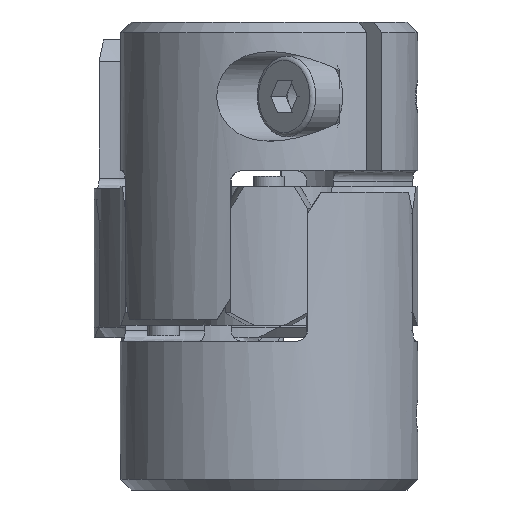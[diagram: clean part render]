
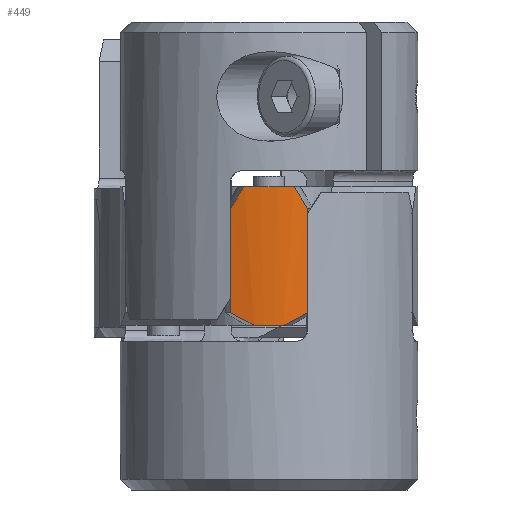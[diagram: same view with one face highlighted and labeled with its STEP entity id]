
A CAD part, left-side view. The second image highlights one B-rep face of the part: STEP entity #449.
In plain terms, the highlighted cylindrical face has radius 7 mm (diameter 14 mm), a partial arc.
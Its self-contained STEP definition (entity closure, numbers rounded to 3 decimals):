
#449 = ADVANCED_FACE( 'NONE', ( #834 ), #835, .T. );
#834 = FACE_OUTER_BOUND( '', #1089, .T. );
#835 = CYLINDRICAL_SURFACE( '', #1090, 7. );
#1089 = EDGE_LOOP( '', ( #1531, #1532, #1533, #1534, #1535, #1536, #1537, #1538 ) );
#1090 = AXIS2_PLACEMENT_3D( '', #1539, #1540, #1541 );
#1531 = ORIENTED_EDGE( '', *, *, #2237, .T. );
#1532 = ORIENTED_EDGE( '', *, *, #2238, .T. );
#1533 = ORIENTED_EDGE( '', *, *, #2162, .T. );
#1534 = ORIENTED_EDGE( '', *, *, #2174, .F. );
#1535 = ORIENTED_EDGE( '', *, *, #2221, .T. );
#1536 = ORIENTED_EDGE( '', *, *, #2239, .F. );
#1537 = ORIENTED_EDGE( '', *, *, #2199, .T. );
#1538 = ORIENTED_EDGE( '', *, *, #2240, .T. );
#1539 = CARTESIAN_POINT( '', ( 0., 0., 6.5 ) );
#1540 = DIRECTION( '', ( 0., 0., 1. ) );
#1541 = DIRECTION( '', ( -1., 0., 0. ) );
#2162 = EDGE_CURVE( 'NONE', #2447, #2448, #2449, .T. );
#2174 = EDGE_CURVE( 'NONE', #2468, #2448, #2470, .T. );
#2199 = EDGE_CURVE( 'NONE', #2517, #2515, #2518, .T. );
#2221 = EDGE_CURVE( 'NONE', #2468, #2554, #2555, .T. );
#2237 = EDGE_CURVE( 'NONE', #2581, #2582, #2583, .T. );
#2238 = EDGE_CURVE( 'NONE', #2582, #2447, #2584, .T. );
#2239 = EDGE_CURVE( 'NONE', #2517, #2554, #2585, .T. );
#2240 = EDGE_CURVE( 'NONE', #2515, #2581, #2586, .T. );
#2447 = VERTEX_POINT( 'NONE', #2693 );
#2448 = VERTEX_POINT( 'NONE', #2694 );
#2449 = B_SPLINE_CURVE_WITH_KNOTS( '', 3, ( #2695, #2696, #2697, #2698 ), .UNSPECIFIED., .F., .F., ( 4, 4 ), ( 0., 0.001 ), .UNSPECIFIED. );
#2468 = VERTEX_POINT( 'NONE', #2731 );
#2470 = LINE( '', #2733, #2734 );
#2515 = VERTEX_POINT( 'NONE', #2813 );
#2517 = VERTEX_POINT( 'NONE', #2815 );
#2518 = B_SPLINE_CURVE_WITH_KNOTS( '', 3, ( #2816, #2817, #2818, #2819 ), .UNSPECIFIED., .F., .F., ( 4, 4 ), ( 0.013, 0.014 ), .UNSPECIFIED. );
#2554 = VERTEX_POINT( 'NONE', #2876 );
#2555 = B_SPLINE_CURVE_WITH_KNOTS( '', 3, ( #2877, #2878, #2879, #2880 ), .UNSPECIFIED., .F., .F., ( 4, 4 ), ( 0.054, 0.055 ), .UNSPECIFIED. );
#2581 = VERTEX_POINT( 'NONE', #2918 );
#2582 = VERTEX_POINT( 'NONE', #2919 );
#2583 = B_SPLINE_CURVE_WITH_KNOTS( '', 3, ( #2920, #2921, #2922, #2923 ), .UNSPECIFIED., .F., .F., ( 4, 4 ), ( 0., 0.001 ), .UNSPECIFIED. );
#2584 = CIRCLE( '', #2924, 7. );
#2585 = CIRCLE( '', #2925, 7. );
#2586 = LINE( '', #2926, #2927 );
#2693 = CARTESIAN_POINT( '', ( -6.965, -0.702, 0. ) );
#2694 = CARTESIAN_POINT( '', ( -6.761, -1.812, 0.577 ) );
#2695 = CARTESIAN_POINT( '', ( -6.965, -0.702, 0. ) );
#2696 = CARTESIAN_POINT( '', ( -6.927, -1.075, 0.196 ) );
#2697 = CARTESIAN_POINT( '', ( -6.86, -1.446, 0.388 ) );
#2698 = CARTESIAN_POINT( '', ( -6.761, -1.812, 0.577 ) );
#2731 = CARTESIAN_POINT( '', ( -6.761, -1.812, 5.5 ) );
#2733 = CARTESIAN_POINT( '', ( -6.761, -1.812, 0. ) );
#2734 = VECTOR( '', #3074, 1000. );
#2813 = CARTESIAN_POINT( '', ( -6.761, 1.812, 5.5 ) );
#2815 = CARTESIAN_POINT( '', ( -6.902, 1.169, 6.5 ) );
#2816 = CARTESIAN_POINT( '', ( -6.902, 1.169, 6.5 ) );
#2817 = CARTESIAN_POINT( '', ( -6.865, 1.384, 6.165 ) );
#2818 = CARTESIAN_POINT( '', ( -6.819, 1.599, 5.831 ) );
#2819 = CARTESIAN_POINT( '', ( -6.761, 1.812, 5.5 ) );
#2876 = CARTESIAN_POINT( '', ( -6.902, -1.169, 6.5 ) );
#2877 = CARTESIAN_POINT( '', ( -6.761, -1.812, 5.5 ) );
#2878 = CARTESIAN_POINT( '', ( -6.819, -1.597, 5.833 ) );
#2879 = CARTESIAN_POINT( '', ( -6.865, -1.383, 6.167 ) );
#2880 = CARTESIAN_POINT( '', ( -6.902, -1.169, 6.5 ) );
#2918 = CARTESIAN_POINT( '', ( -6.761, 1.812, 0.577 ) );
#2919 = CARTESIAN_POINT( '', ( -6.965, 0.702, 0. ) );
#2920 = CARTESIAN_POINT( '', ( -6.761, 1.812, 0.577 ) );
#2921 = CARTESIAN_POINT( '', ( -6.86, 1.446, 0.388 ) );
#2922 = CARTESIAN_POINT( '', ( -6.927, 1.075, 0.196 ) );
#2923 = CARTESIAN_POINT( '', ( -6.965, 0.702, 0. ) );
#2924 = AXIS2_PLACEMENT_3D( '', #3178, #3179, #3180 );
#2925 = AXIS2_PLACEMENT_3D( '', #3181, #3182, #3183 );
#2926 = CARTESIAN_POINT( '', ( -6.761, 1.812, 0. ) );
#2927 = VECTOR( '', #3184, 1000. );
#3074 = DIRECTION( '', ( 0., 0., -1. ) );
#3178 = CARTESIAN_POINT( '', ( 0., 0., 0. ) );
#3179 = DIRECTION( '', ( 0., 0., 1. ) );
#3180 = DIRECTION( '', ( 1., 0., 0. ) );
#3181 = CARTESIAN_POINT( '', ( 0., 0., 6.5 ) );
#3182 = DIRECTION( '', ( 0., 0., 1. ) );
#3183 = DIRECTION( '', ( 1., 0., 0. ) );
#3184 = DIRECTION( '', ( 0., 0., -1. ) );
